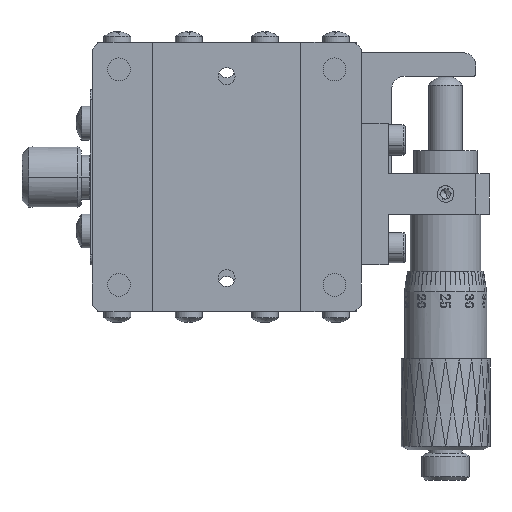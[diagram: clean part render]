
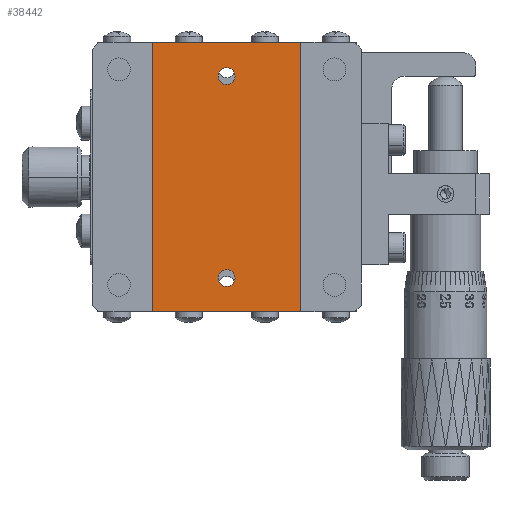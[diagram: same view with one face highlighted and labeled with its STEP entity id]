
A CAD part, front view. The second image highlights one B-rep face of the part: STEP entity #38442.
In plain terms, the highlighted planar face has unit normal (0, -1, 0).
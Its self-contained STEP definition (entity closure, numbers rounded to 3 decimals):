
#253 = CARTESIAN_POINT ( 'NONE',  ( 20.054, 32.855, 37.887 ) ) ;
#663 = VERTEX_POINT ( 'NONE', #27238 ) ;
#1300 = DIRECTION ( 'NONE',  ( 0., 0., 1. ) ) ;
#2515 = CARTESIAN_POINT ( 'NONE',  ( 20.054, 32.855, 7.887 ) ) ;
#2620 = CARTESIAN_POINT ( 'NONE',  ( 9.054, 32.855, 42.887 ) ) ;
#4091 = DIRECTION ( 'NONE',  ( 0., 0., 1. ) ) ;
#7843 = EDGE_CURVE ( 'NONE', #48884, #32589, #79053, .T. ) ;
#11025 = AXIS2_PLACEMENT_3D ( 'NONE', #23229, #47212, #67444 ) ;
#11111 = CARTESIAN_POINT ( 'NONE',  ( 31.054, 32.855, 2.887 ) ) ;
#12120 = CARTESIAN_POINT ( 'NONE',  ( 9.054, 32.855, 2.887 ) ) ;
#12552 = VERTEX_POINT ( 'NONE', #38741 ) ;
#13914 = EDGE_CURVE ( 'NONE', #80176, #26507, #64081, .T. ) ;
#14089 = DIRECTION ( 'NONE',  ( 0., 1., 0. ) ) ;
#14678 = LINE ( 'NONE', #45665, #38940 ) ;
#14884 = CARTESIAN_POINT ( 'NONE',  ( 20.054, 32.855, 7.887 ) ) ;
#15846 = EDGE_LOOP ( 'NONE', ( #37624, #38358 ) ) ;
#16937 = AXIS2_PLACEMENT_3D ( 'NONE', #12120, #50960, #62989 ) ;
#18242 = EDGE_LOOP ( 'NONE', ( #60316, #29450, #20243, #42669 ) ) ;
#19961 = FACE_OUTER_BOUND ( 'NONE', #18242, .T. ) ;
#20243 = ORIENTED_EDGE ( 'NONE', *, *, #32953, .F. ) ;
#21924 = DIRECTION ( 'NONE',  ( 0., 1., 0. ) ) ;
#23229 = CARTESIAN_POINT ( 'NONE',  ( 20.054, 32.855, 37.887 ) ) ;
#24677 = CARTESIAN_POINT ( 'NONE',  ( 9.054, 32.855, 2.887 ) ) ;
#26507 = VERTEX_POINT ( 'NONE', #63940 ) ;
#27238 = CARTESIAN_POINT ( 'NONE',  ( 31.054, 32.855, 2.887 ) ) ;
#27465 = DIRECTION ( 'NONE',  ( -1., 0., 0. ) ) ;
#27959 = CARTESIAN_POINT ( 'NONE',  ( 20.054, 32.855, 39.137 ) ) ;
#29450 = ORIENTED_EDGE ( 'NONE', *, *, #7843, .F. ) ;
#29669 = VECTOR ( 'NONE', #65514, 1000. ) ;
#30779 = CARTESIAN_POINT ( 'NONE',  ( 20.054, 32.855, 9.137 ) ) ;
#31163 = FACE_BOUND ( 'NONE', #74290, .T. ) ;
#31560 = EDGE_CURVE ( 'NONE', #12552, #32589, #14678, .T. ) ;
#32339 = EDGE_CURVE ( 'NONE', #80758, #55603, #54775, .T. ) ;
#32589 = VERTEX_POINT ( 'NONE', #2620 ) ;
#32619 = LINE ( 'NONE', #39226, #37433 ) ;
#32953 = EDGE_CURVE ( 'NONE', #663, #48884, #32619, .T. ) ;
#37433 = VECTOR ( 'NONE', #44980, 1000. ) ;
#37609 = AXIS2_PLACEMENT_3D ( 'NONE', #2515, #21924, #1300 ) ;
#37624 = ORIENTED_EDGE ( 'NONE', *, *, #13914, .T. ) ;
#37759 = PLANE ( 'NONE',  #16937 ) ;
#38358 = ORIENTED_EDGE ( 'NONE', *, *, #56561, .T. ) ;
#38442 = ADVANCED_FACE ( 'NONE', ( #63794, #31163, #19961 ), #37759, .F. ) ;
#38741 = CARTESIAN_POINT ( 'NONE',  ( 31.054, 32.855, 42.887 ) ) ;
#38940 = VECTOR ( 'NONE', #27465, 1000. ) ;
#39226 = CARTESIAN_POINT ( 'NONE',  ( 9.054, 32.855, 2.887 ) ) ;
#42669 = ORIENTED_EDGE ( 'NONE', *, *, #56643, .T. ) ;
#43646 = DIRECTION ( 'NONE',  ( 0., 0., 1. ) ) ;
#44980 = DIRECTION ( 'NONE',  ( -1., 0., 0. ) ) ;
#45665 = CARTESIAN_POINT ( 'NONE',  ( 9.054, 32.855, 42.887 ) ) ;
#45753 = EDGE_CURVE ( 'NONE', #55603, #80758, #74331, .T. ) ;
#47212 = DIRECTION ( 'NONE',  ( 0., 1., 0. ) ) ;
#48884 = VERTEX_POINT ( 'NONE', #24677 ) ;
#50960 = DIRECTION ( 'NONE',  ( 0., 1., 0. ) ) ;
#53495 = ORIENTED_EDGE ( 'NONE', *, *, #45753, .T. ) ;
#54775 = CIRCLE ( 'NONE', #75675, 1.25 ) ;
#55603 = VERTEX_POINT ( 'NONE', #27959 ) ;
#56561 = EDGE_CURVE ( 'NONE', #26507, #80176, #75752, .T. ) ;
#56643 = EDGE_CURVE ( 'NONE', #663, #12552, #60726, .T. ) ;
#60316 = ORIENTED_EDGE ( 'NONE', *, *, #31560, .T. ) ;
#60726 = LINE ( 'NONE', #11111, #73101 ) ;
#61317 = ORIENTED_EDGE ( 'NONE', *, *, #32339, .T. ) ;
#62989 = DIRECTION ( 'NONE',  ( 0., 0., 1. ) ) ;
#63794 = FACE_BOUND ( 'NONE', #15846, .T. ) ;
#63940 = CARTESIAN_POINT ( 'NONE',  ( 20.054, 32.855, 6.637 ) ) ;
#64081 = CIRCLE ( 'NONE', #37609, 1.25 ) ;
#65514 = DIRECTION ( 'NONE',  ( 0., 0., 1. ) ) ;
#67444 = DIRECTION ( 'NONE',  ( 0., 0., 1. ) ) ;
#71773 = CARTESIAN_POINT ( 'NONE',  ( 20.054, 32.855, 36.637 ) ) ;
#73101 = VECTOR ( 'NONE', #4091, 1000. ) ;
#74290 = EDGE_LOOP ( 'NONE', ( #53495, #61317 ) ) ;
#74331 = CIRCLE ( 'NONE', #11025, 1.25 ) ;
#74376 = AXIS2_PLACEMENT_3D ( 'NONE', #14884, #14089, #78057 ) ;
#75418 = DIRECTION ( 'NONE',  ( 0., 1., 0. ) ) ;
#75675 = AXIS2_PLACEMENT_3D ( 'NONE', #253, #75418, #43646 ) ;
#75752 = CIRCLE ( 'NONE', #74376, 1.25 ) ;
#78057 = DIRECTION ( 'NONE',  ( 0., 0., 1. ) ) ;
#78236 = CARTESIAN_POINT ( 'NONE',  ( 9.054, 32.855, 2.887 ) ) ;
#79053 = LINE ( 'NONE', #78236, #29669 ) ;
#80176 = VERTEX_POINT ( 'NONE', #30779 ) ;
#80758 = VERTEX_POINT ( 'NONE', #71773 ) ;
